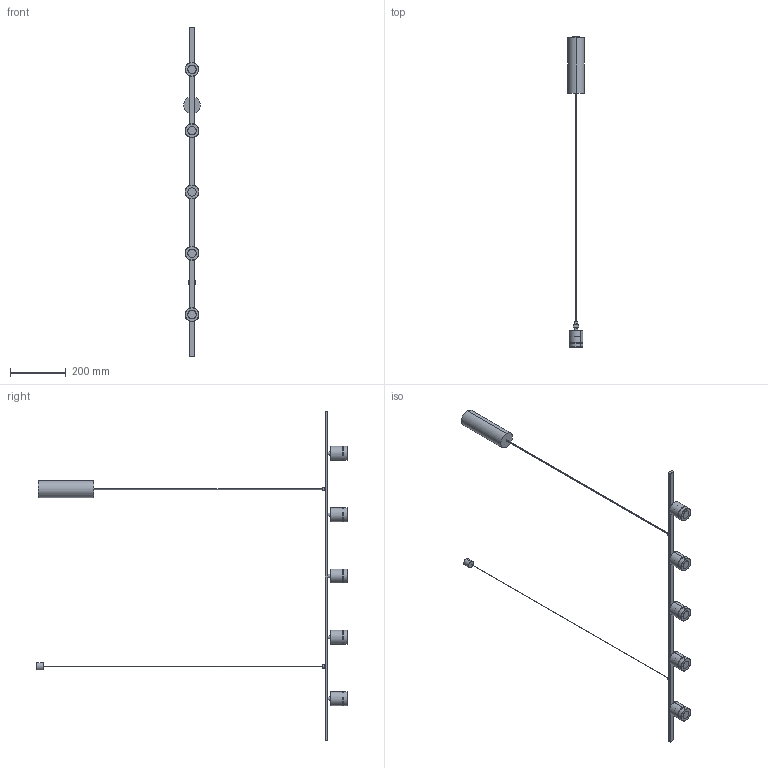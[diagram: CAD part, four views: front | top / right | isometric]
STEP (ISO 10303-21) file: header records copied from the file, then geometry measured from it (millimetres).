
FILE_DESCRIPTION (( 'STEP AP214' ), '1' );
FILE_NAME ('TEA_C1337_5.STEP', '2025-02-20T14:41:43', ( '' ), ( '' ), 'SwSTEP 2.0', 'SolidWorks 2018', '' );
FILE_SCHEMA (( 'AUTOMOTIVE_DESIGN' ));
Length unit declared in the file: millimetre
Products named in the file (1): TEA_C1337_5
Bounding box: 60 x 1115.2 x 1180 mm (x, y, z)
Volume: 1272084.6 mm3; surface area: 251817.5 mm2
Topology: 25 solids, 30 shells, 182 faces, 310 edges, 182 vertices
Faces by surface type: cylinder 74, plane 66, torus 34, sphere 8
Entity records: 6476 total; most frequent: DIRECTION 884, CARTESIAN_POINT 667, ORIENTED_EDGE 604, AXIS2_PLACEMENT_3D 399, EDGE_CURVE 302, CIRCLE 216, UNCERTAINTY_MEASURE_WITH_UNIT 205, FILL_AREA_STYLE 204
